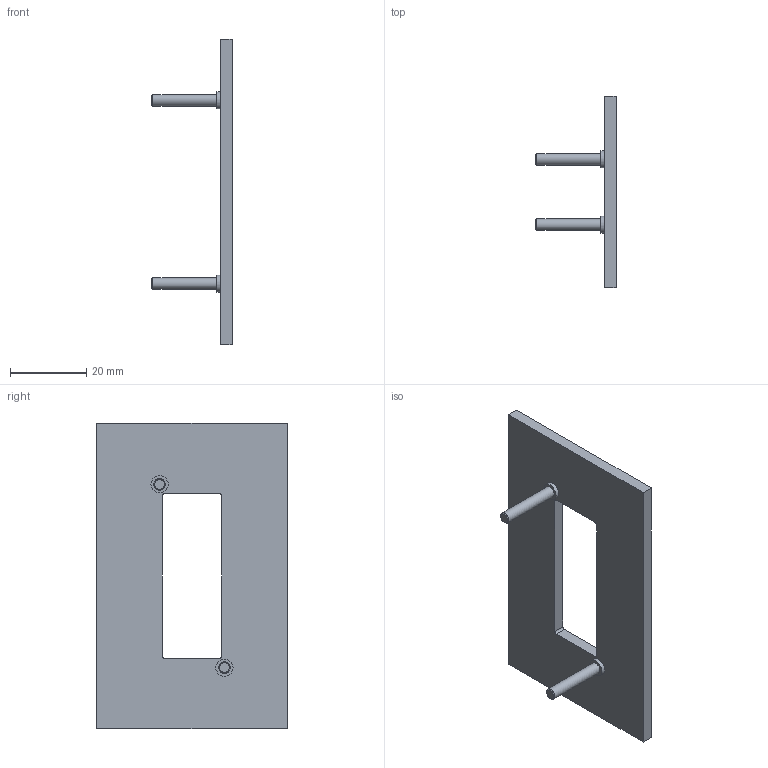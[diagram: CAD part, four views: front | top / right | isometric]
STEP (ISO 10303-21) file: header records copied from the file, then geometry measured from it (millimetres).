
FILE_DESCRIPTION(/* description */ (''),/* implementation_level */ '2;1');
FILE_NAME(/* name */ 'Q:\Neue Struktur\_Bauteile\Supportzeichnungen\D11x Button\Illuminated Call Button for DoorBird D11x.stp',/* time_stamp */ '2022-08-19T10:05:26+02:00',/* author */ ('David Keller'),/* organization */ (''),/* preprocessor_version */ 'ST-DEVELOPER v18.1',/* originating_system */ 'Autodesk Inventor 2020',/* authorisation */ '');
FILE_SCHEMA (('AUTOMOTIVE_DESIGN { 1 0 10303 214 3 1 1 }'));
Length unit declared in the file: millimetre
Products named in the file (1): Illuminated Call Button for DoorBird D11x
Bounding box: 21 x 50 x 80 mm (x, y, z)
Volume: 10272.7 mm3; surface area: 8141.6 mm2
Topology: 1 solids, 1 shells, 24 faces, 60 edges, 42 vertices
Faces by surface type: plane 14, cylinder 8, cone 2
Full cylindrical faces by diameter (mm): 3 x2, 4.5 x2
Entity records: 783 total; most frequent: DIRECTION 136, CARTESIAN_POINT 127, ORIENTED_EDGE 120, EDGE_CURVE 60, AXIS2_PLACEMENT_3D 51, VERTEX_POINT 42, LINE 34, VECTOR 34
